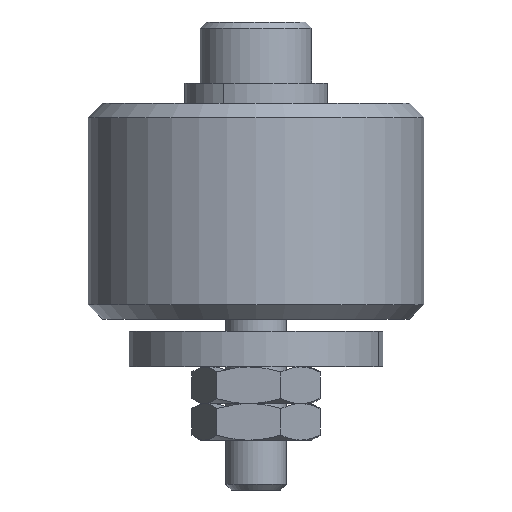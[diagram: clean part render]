
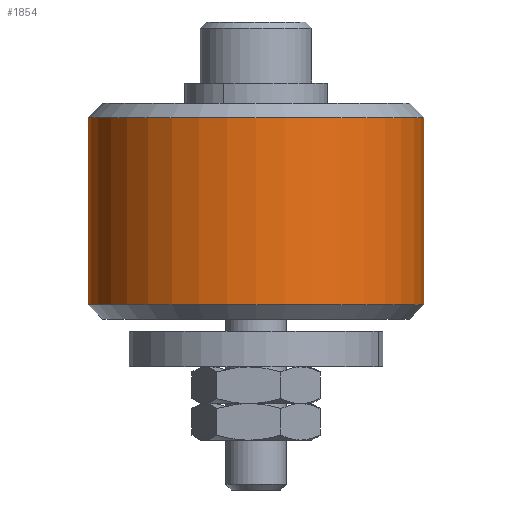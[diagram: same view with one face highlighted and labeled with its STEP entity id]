
A CAD part, front view. The second image highlights one B-rep face of the part: STEP entity #1854.
In plain terms, the highlighted cylindrical face has radius 8.25 mm (diameter 16.5 mm), a partial arc.
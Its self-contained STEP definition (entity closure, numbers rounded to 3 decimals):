
#47 = ORIENTED_EDGE ( 'NONE', *, *, #406, .T. ) ;
#81 = ORIENTED_EDGE ( 'NONE', *, *, #2903, .F. ) ;
#112 = EDGE_CURVE ( 'NONE', #2455, #2744, #2389, .T. ) ;
#377 = CARTESIAN_POINT ( 'NONE',  ( 0., 0., 4.6 ) ) ;
#399 = VECTOR ( 'NONE', #1891, 1000. ) ;
#406 = EDGE_CURVE ( 'NONE', #934, #2455, #2810, .T. ) ;
#427 = CARTESIAN_POINT ( 'NONE',  ( 8.25, 0., -4.6 ) ) ;
#441 = DIRECTION ( 'NONE',  ( 0., 0., 1. ) ) ;
#561 = VECTOR ( 'NONE', #848, 1000. ) ;
#566 = CARTESIAN_POINT ( 'NONE',  ( 8.25, 0., 5.3 ) ) ;
#579 = LINE ( 'NONE', #1950, #561 ) ;
#618 = CARTESIAN_POINT ( 'NONE',  ( -8.25, 0., -4.6 ) ) ;
#626 = CARTESIAN_POINT ( 'NONE',  ( 8.25, 0., 4.6 ) ) ;
#627 = DIRECTION ( 'NONE',  ( -1., 0., 0. ) ) ;
#666 = FACE_OUTER_BOUND ( 'NONE', #1818, .T. ) ;
#848 = DIRECTION ( 'NONE',  ( 0., 0., 1. ) ) ;
#917 = CYLINDRICAL_SURFACE ( 'NONE', #2061, 8.25 ) ;
#934 = VERTEX_POINT ( 'NONE', #427 ) ;
#1182 = CARTESIAN_POINT ( 'NONE',  ( -8.25, 0., 4.6 ) ) ;
#1278 = DIRECTION ( 'NONE',  ( 0., 0., -1. ) ) ;
#1314 = CIRCLE ( 'NONE', #1922, 8.25 ) ;
#1776 = CARTESIAN_POINT ( 'NONE',  ( 0., 0., -4.6 ) ) ;
#1818 = EDGE_LOOP ( 'NONE', ( #81, #2330, #47, #2580 ) ) ;
#1854 = ADVANCED_FACE ( 'NONE', ( #666 ), #917, .T. ) ;
#1870 = AXIS2_PLACEMENT_3D ( 'NONE', #377, #1278, #627 ) ;
#1891 = DIRECTION ( 'NONE',  ( 0., 0., 1. ) ) ;
#1922 = AXIS2_PLACEMENT_3D ( 'NONE', #1776, #2713, #2270 ) ;
#1950 = CARTESIAN_POINT ( 'NONE',  ( -8.25, 0., 5.3 ) ) ;
#2061 = AXIS2_PLACEMENT_3D ( 'NONE', #2274, #441, #2702 ) ;
#2102 = VERTEX_POINT ( 'NONE', #618 ) ;
#2173 = EDGE_CURVE ( 'NONE', #2102, #934, #1314, .T. ) ;
#2270 = DIRECTION ( 'NONE',  ( 1., 0., 0. ) ) ;
#2274 = CARTESIAN_POINT ( 'NONE',  ( 0., 0., 5.3 ) ) ;
#2330 = ORIENTED_EDGE ( 'NONE', *, *, #2173, .T. ) ;
#2389 = CIRCLE ( 'NONE', #1870, 8.25 ) ;
#2455 = VERTEX_POINT ( 'NONE', #626 ) ;
#2580 = ORIENTED_EDGE ( 'NONE', *, *, #112, .T. ) ;
#2702 = DIRECTION ( 'NONE',  ( 1., 0., 0. ) ) ;
#2713 = DIRECTION ( 'NONE',  ( 0., 0., 1. ) ) ;
#2744 = VERTEX_POINT ( 'NONE', #1182 ) ;
#2810 = LINE ( 'NONE', #566, #399 ) ;
#2903 = EDGE_CURVE ( 'NONE', #2102, #2744, #579, .T. ) ;
